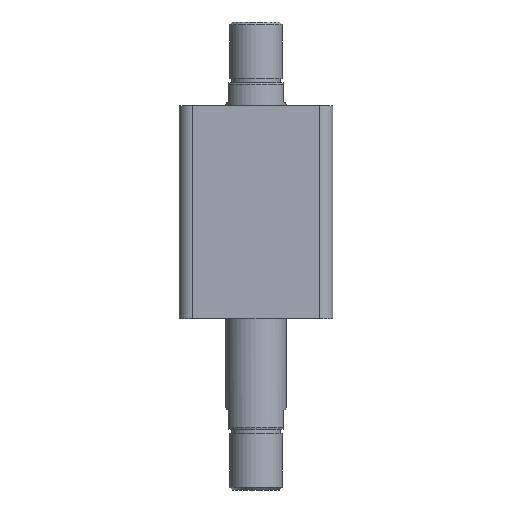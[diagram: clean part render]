
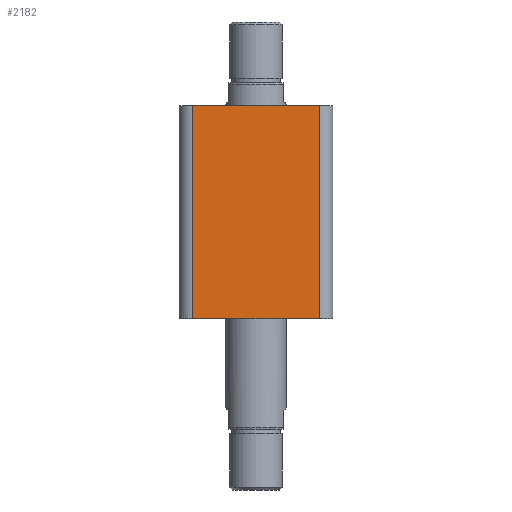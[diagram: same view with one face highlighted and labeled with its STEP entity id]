
A CAD part, front view. The second image highlights one B-rep face of the part: STEP entity #2182.
In plain terms, the highlighted planar face has unit normal (0, -1, 0).
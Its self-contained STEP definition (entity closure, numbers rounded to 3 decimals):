
#313 = CARTESIAN_POINT ( 'NONE',  ( -47., -57., 0. ) ) ;
#550 = DIRECTION ( 'NONE',  ( 0., 0., 1. ) ) ;
#555 = CARTESIAN_POINT ( 'NONE',  ( -57., -57., 0. ) ) ;
#556 = CARTESIAN_POINT ( 'NONE',  ( 47., -57., 158. ) ) ;
#557 = DIRECTION ( 'NONE',  ( 1., 0., 0. ) ) ;
#565 = CARTESIAN_POINT ( 'NONE',  ( -57., -57., 158. ) ) ;
#569 = DIRECTION ( 'NONE',  ( 1., 0., 0. ) ) ;
#570 = CARTESIAN_POINT ( 'NONE',  ( -47., -57., 158. ) ) ;
#571 = DIRECTION ( 'NONE',  ( 0., 0., -1. ) ) ;
#959 = ORIENTED_EDGE ( 'NONE', *, *, #3353, .T. ) ;
#961 = ORIENTED_EDGE ( 'NONE', *, *, #3352, .F. ) ;
#962 = ORIENTED_EDGE ( 'NONE', *, *, #3348, .T. ) ;
#963 = ORIENTED_EDGE ( 'NONE', *, *, #3346, .T. ) ;
#1221 = EDGE_LOOP ( 'NONE', ( #963, #962, #961, #959 ) ) ;
#1385 = CARTESIAN_POINT ( 'NONE',  ( 47., -57., 0. ) ) ;
#1386 = CARTESIAN_POINT ( 'NONE',  ( -47., -57., 158. ) ) ;
#1387 = CARTESIAN_POINT ( 'NONE',  ( 47., -57., 158. ) ) ;
#1413 = VERTEX_POINT ( 'NONE', #313 ) ;
#1438 = VERTEX_POINT ( 'NONE', #1387 ) ;
#1439 = VERTEX_POINT ( 'NONE', #1386 ) ;
#1440 = VERTEX_POINT ( 'NONE', #1385 ) ;
#1768 = CARTESIAN_POINT ( 'NONE',  ( -57., -57., 158. ) ) ;
#1774 = PLANE ( 'NONE',  #2326 ) ;
#1775 = DIRECTION ( 'NONE',  ( 0., 1., 0. ) ) ;
#1776 = DIRECTION ( 'NONE',  ( 0., 0., 1. ) ) ;
#2182 = ADVANCED_FACE ( 'NONE', ( #2731 ), #1774, .F. ) ;
#2326 = AXIS2_PLACEMENT_3D ( 'NONE', #1768, #1775, #1776 ) ;
#2731 = FACE_OUTER_BOUND ( 'NONE', #1221, .T. ) ;
#3047 = LINE ( 'NONE', #555, #3050 ) ;
#3050 = VECTOR ( 'NONE', #557, 1000. ) ;
#3051 = LINE ( 'NONE', #556, #3053 ) ;
#3053 = VECTOR ( 'NONE', #550, 1000. ) ;
#3054 = LINE ( 'NONE', #565, #3060 ) ;
#3059 = LINE ( 'NONE', #570, #3062 ) ;
#3060 = VECTOR ( 'NONE', #569, 1000. ) ;
#3062 = VECTOR ( 'NONE', #571, 1000. ) ;
#3346 = EDGE_CURVE ( 'NONE', #1413, #1440, #3047, .T. ) ;
#3348 = EDGE_CURVE ( 'NONE', #1440, #1438, #3051, .T. ) ;
#3352 = EDGE_CURVE ( 'NONE', #1439, #1438, #3054, .T. ) ;
#3353 = EDGE_CURVE ( 'NONE', #1439, #1413, #3059, .T. ) ;
